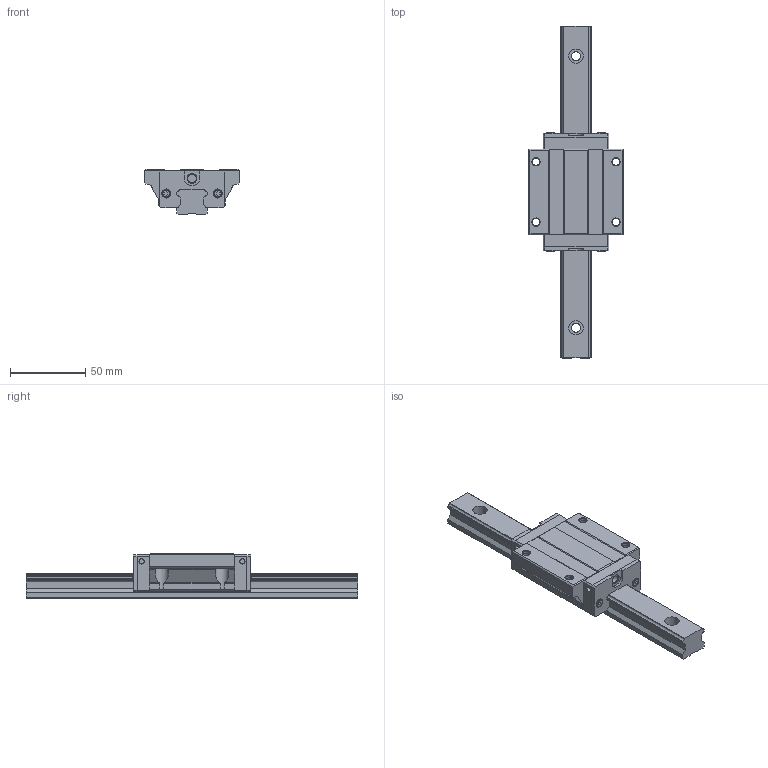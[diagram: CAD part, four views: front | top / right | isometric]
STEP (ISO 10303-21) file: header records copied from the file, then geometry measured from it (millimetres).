
FILE_DESCRIPTION( ( 'Unknown' ), '1' );
FILE_NAME( '//Sbc-server/力前/档搁包府/力前档搁/力前档(Rev.2007)/脚力前 俺惯 橇肺璃飘/2008.09.01 脚力前 SBI 15-25 俺惯 [TFT]/墨呕肺弊/3D 墨呕肺弊/SBI 20/STP/SBI 20 FL.stp', 'Unknown', ( 'Unknown' ), ( 'Unknown' ), 'XStep 1.0', 'Unknown', ' ' );
FILE_SCHEMA( ( 'automotive_design' ) );
Length unit declared in the file: millimetre
Products named in the file (7): Assem1; 20-RAIL; SBI 20 FL
Bounding box: 63 x 220 x 30 mm (x, y, z)
Volume: 270490.2 mm3; surface area: 86015.2 mm2
Topology: 12 solids, 12 shells, 762 faces, 2010 edges, 1332 vertices
Faces by surface type: plane 556, cylinder 160, extrusion 30, cone 8, torus 8
Full cylindrical faces by diameter (mm): 3.5 x24, 4.917 x16, 5.5 x8, 5.7 x4, 6 x16, 6.5 x4, 9.5 x8
Entity records: 12601 total; most frequent: CARTESIAN_POINT 2837, ORIENTED_EDGE 1886, DIRECTION 1738, EDGE_CURVE 943, VECTOR 672, LINE 657, VERTEX_POINT 654, AXIS2_PLACEMENT_3D 533
